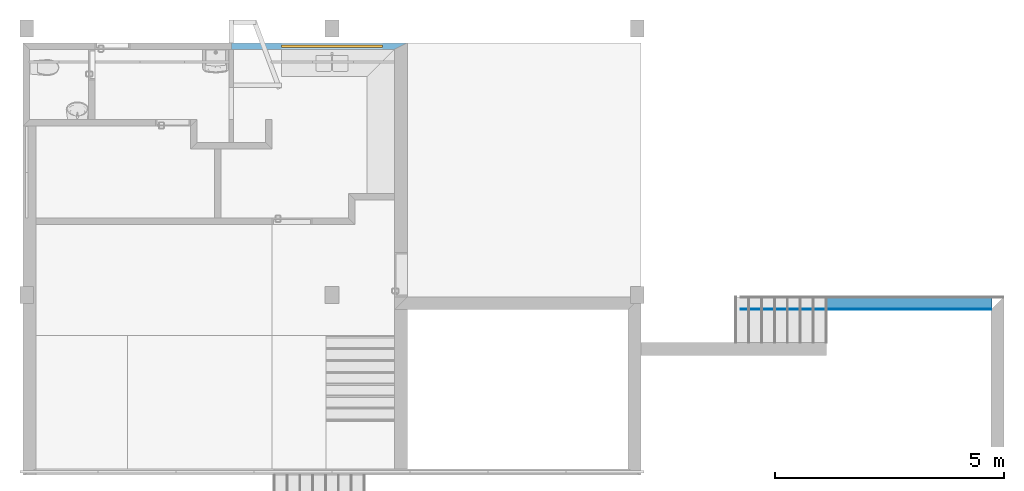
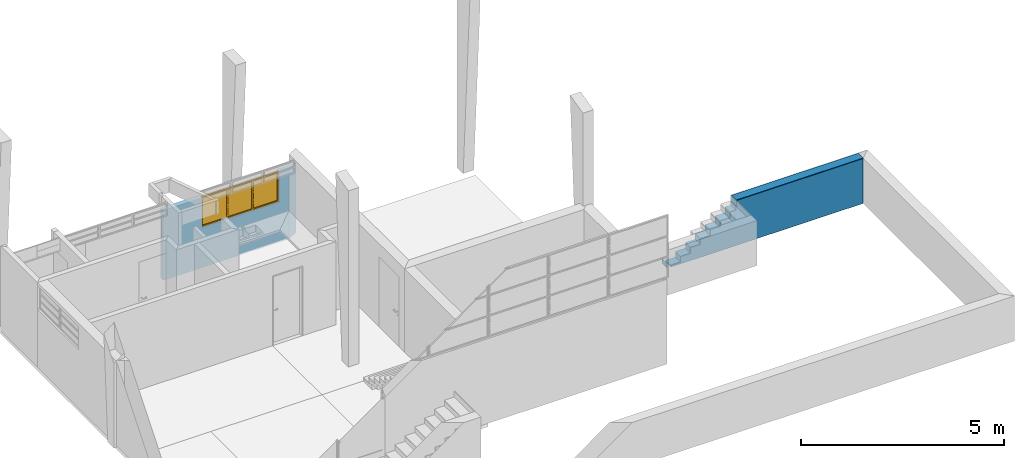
# One storey, part 11 of 16: 2 building element parts, 1 window, 4 openings, 1 element without a shape of its own, plus 1 element that does not belong to this part.
"""IFC2X3 building model written with IfcOpenShell, lengths in millimetres."""

import ifcopenshell
import ifcopenshell.guid

model = None  # the IFC model being written
_history = None  # IfcOwnerHistory: only IFC2X3 demands one
_inside = {}  # id of a spatial element -> (the spatial element, [elements in it])
_under = {}  # id of a project, library or spatial element -> (it, [spatial elements below it])
_declared = {}  # id of a project -> (the project, [libraries it declares])
_typed = {}  # id of a type object -> (the type object, [elements of that type])
_made_of = {}  # id of a material, layer set ... -> (it, [elements and type objects made of it])


def new_model(schema):
    """Start an empty IFC model of exactly this schema.

    Asked for "IFC4X3", IfcOpenShell would pick the latest addendum, in which some entities
    have other attributes; the version numbers below select the first issue.
    IFC2X3 requires an IfcOwnerHistory on every rooted entity: one is made here for all.
    """
    global model, _history
    if schema == "IFC4X3":
        model = ifcopenshell.file(schema_version=(4, 3, 0, 0))
    else:
        model = ifcopenshell.file(schema=schema)
    _inside.clear()
    _under.clear()
    _declared.clear()
    _typed.clear()
    _made_of.clear()
    _history = None
    if model.schema == "IFC2X3":
        org = make("IfcOrganization", Name="unknown")
        user = make(
            "IfcPersonAndOrganization",
            ThePerson=make("IfcPerson", FamilyName="unknown"),
            TheOrganization=org,
        )
        app = make(
            "IfcApplication",
            ApplicationDeveloper=org,
            Version="unknown",
            ApplicationFullName="unknown",
            ApplicationIdentifier="unknown",
        )
        _history = make(
            "IfcOwnerHistory",
            OwningUser=user,
            OwningApplication=app,
            ChangeAction="ADDED",
            CreationDate=0,
        )
    return model


def make(cls, **values):
    """One entity of the class cls with the attributes given. An attribute that is None is left unset."""
    return model.create_entity(
        cls, **{name: value for name, value in values.items() if value is not None}
    )


def entity(cls, *values):
    """Any entity or typed value of the class cls, its attributes in the order of the schema. None: left unset."""
    e = model.create_entity(cls)
    for i, value in enumerate(values):
        if value is not None:
            e[i] = value
    return e


def rooted(cls, **values):
    """An entity with a GlobalId (a new one), such as an element, a storey or a relation."""
    return make(cls, GlobalId=ifcopenshell.guid.new(), OwnerHistory=_history, **values)


def si_unit(unit_type, name, prefix=None):
    """IfcSIUnit, for example si_unit("LENGTHUNIT", "METRE", prefix="MILLI")."""
    return make("IfcSIUnit", UnitType=unit_type, Prefix=prefix, Name=name)


def converted_unit(unit_type, name, factor, base, dimensions=None, offset=None):
    """IfcConversionBasedUnit, such as the inch: factor (a typed value) times the base unit."""
    return make(
        "IfcConversionBasedUnit"
        if offset is None
        else "IfcConversionBasedUnitWithOffset",
        ConversionOffset=offset,
        Dimensions=None
        if dimensions is None
        else entity("IfcDimensionalExponents", *dimensions),
        UnitType=unit_type,
        Name=name,
        ConversionFactor=make(
            "IfcMeasureWithUnit", ValueComponent=factor, UnitComponent=base
        ),
    )


def derived_unit(unit_type, elements):
    """IfcDerivedUnit: a product of units, each with its exponent."""
    return make(
        "IfcDerivedUnit",
        Elements=[
            make("IfcDerivedUnitElement", Unit=unit, Exponent=power)
            for unit, power in elements
        ],
        UnitType=unit_type,
    )


def money_unit(currency):
    """IfcMonetaryUnit."""
    return make("IfcMonetaryUnit", Currency=currency)


def assignment(units):
    """IfcUnitAssignment: the units of a project."""
    return None if units is None else make("IfcUnitAssignment", Units=units)


def point(xyz):
    """IfcCartesianPoint."""
    return None if xyz is None else make("IfcCartesianPoint", Coordinates=xyz)


def direction(xyz):
    """IfcDirection."""
    return None if xyz is None else make("IfcDirection", DirectionRatios=xyz)


def frame(location, z_axis=None, x_axis=None):
    """IfcAxis2Placement3D, a coordinate frame: its origin and axes. An axis left out is left unset."""
    return make(
        "IfcAxis2Placement3D",
        Location=point(location),
        Axis=direction(z_axis),
        RefDirection=direction(x_axis),
    )


def frame_2d(location, x_axis=None):
    """IfcAxis2Placement2D, a coordinate frame in the plane: its origin and x axis."""
    return make(
        "IfcAxis2Placement2D", Location=point(location), RefDirection=direction(x_axis)
    )


def origin_with_axes():
    """The frame at (0, 0, 0) with the z axis (0, 0, 1) and the x axis (1, 0, 0) written out."""
    return frame((0.0, 0.0, 0.0), z_axis=(0.0, 0.0, 1.0), x_axis=(1.0, 0.0, 0.0))


def origin_2d_with_axis():
    """The frame at (0, 0) in the plane with the x axis (1, 0) written out."""
    return frame_2d((0.0, 0.0), x_axis=(1.0, 0.0))


def place(relative_to, where):
    """IfcLocalPlacement: puts the frame where relative to a parent placement (None: the world)."""
    return make(
        "IfcLocalPlacement", PlacementRelTo=relative_to, RelativePlacement=where
    )


def context(
    kind, dimensions, precision=None, world=None, true_north=None, identifier=None
):
    """IfcGeometricRepresentationContext, for example the 3D "Model" context."""
    return make(
        "IfcGeometricRepresentationContext",
        ContextIdentifier=identifier,
        ContextType=kind,
        CoordinateSpaceDimension=dimensions,
        Precision=precision,
        WorldCoordinateSystem=world,
        TrueNorth=true_north,
    )


def subcontext(parent, identifier, kind, view, scale=None):
    """IfcGeometricRepresentationSubContext, for example "Body" below "Model"."""
    return make(
        "IfcGeometricRepresentationSubContext",
        ContextIdentifier=identifier,
        ContextType=kind,
        ParentContext=parent,
        TargetScale=scale,
        TargetView=view,
    )


def project(units=None, contexts=None):
    """IfcProject with its units and contexts."""
    return rooted(
        "IfcProject",
        Name="project",
        RepresentationContexts=contexts,
        UnitsInContext=assignment(units),
    )


def spatial(cls, under=None, at=None, **own):
    """A site, building, storey or space (cls), placed at a placement, below another one or the project."""
    s = rooted(cls, ObjectPlacement=at, **own)
    if under is not None:
        _under.setdefault(under.id(), (under, []))[1].append(s)
    return s


def polyline(points):
    """IfcPolyline through the points."""
    return make("IfcPolyline", Points=[point(p) for p in points])


def profile(cls, at=None, kind="AREA", **sizes):
    """A parametric profile (cls). Its sizes go by their IFC names, for example OverallWidth=200.0."""
    return make(cls, ProfileType=kind, Position=at, **sizes)


def rectangle(**sizes):
    """IfcRectangleProfileDef."""
    return profile("IfcRectangleProfileDef", **sizes)


def outline(outer, holes=None, kind="AREA"):
    """IfcArbitraryClosedProfileDef: a profile drawn as a closed curve; with holes, ...WithVoids."""
    if holes is None:
        return make("IfcArbitraryClosedProfileDef", ProfileType=kind, OuterCurve=outer)
    return make(
        "IfcArbitraryProfileDefWithVoids",
        ProfileType=kind,
        OuterCurve=outer,
        InnerCurves=holes,
    )


def extrude(swept, where, along, depth):
    """IfcExtrudedAreaSolid: the profile swept, set in the frame where, extruded along a direction by depth."""
    return make(
        "IfcExtrudedAreaSolid",
        SweptArea=swept,
        Position=where,
        ExtrudedDirection=direction(along),
        Depth=depth,
    )


def boolean(op, a, b):
    """IfcBooleanResult of two solids."""
    return make("IfcBooleanResult", Operator=op, FirstOperand=a, SecondOperand=b)


def faces_of(points, faces, orient=None, outer=None):
    """IfcFace entities. A face is a list of loops; a loop is a list of indices into points, from 0.

    orient and outer hold one flag for each loop. By default every Orientation is true, the
    first loop of a face is its IfcFaceOuterBound and the others are IfcFaceBound.
    """
    made = []
    for i, loops in enumerate(faces):
        bounds = []
        for j, loop in enumerate(loops):
            is_outer = j == 0 if outer is None else outer[i][j]
            bounds.append(
                make(
                    "IfcFaceOuterBound" if is_outer else "IfcFaceBound",
                    Bound=make("IfcPolyLoop", Polygon=[points[k] for k in loop]),
                    Orientation=True if orient is None else orient[i][j],
                )
            )
        made.append(make("IfcFace", Bounds=bounds))
    return made


def open_shell(faces, orient=None, outer=None):
    """The faces of one IfcOpenShell. surface_model builds it on its shared points."""
    return ("IfcOpenShell", faces, orient, outer)


def faceted_brep(points, faces, orient=None, outer=None, voids=None):
    """IfcFacetedBrep: a solid bounded by flat faces; with voids (closed shells), ...WithVoids."""
    shared = [point(p) for p in points]
    hull = make("IfcClosedShell", CfsFaces=faces_of(shared, faces, orient, outer))
    if voids is None:
        return make("IfcFacetedBrep", Outer=hull)
    return make(
        "IfcFacetedBrepWithVoids",
        Outer=hull,
        Voids=[
            make(cls, CfsFaces=faces_of(shared, fs, o, b)) for cls, fs, o, b in voids
        ],
    )


def surface_model(cls, points, shells):
    """IfcFaceBasedSurfaceModel or IfcShellBasedSurfaceModel (cls): surfaces that need not close."""
    shared = [point(p) for p in points]
    made = [make(c, CfsFaces=faces_of(shared, fs, o, b)) for c, fs, o, b in shells]
    if cls == "IfcFaceBasedSurfaceModel":
        return make(cls, FbsmFaces=made)
    return make(cls, SbsmBoundary=made)


def shape(context_of_items, identifier, shape_type, items):
    """IfcShapeRepresentation: the items that make up one representation, for example the "Body"."""
    return make(
        "IfcShapeRepresentation",
        ContextOfItems=context_of_items,
        RepresentationIdentifier=identifier,
        RepresentationType=shape_type,
        Items=items,
    )


def material(Name=None, Category=None):
    """IfcMaterial."""
    return make("IfcMaterial", Name=Name, Category=Category)


def layer(
    of_material, thickness, ventilated=None, Name=None, Category=None, Priority=None
):
    """IfcMaterialLayer: one layer of a wall or slab, of a material (None: an air gap)."""
    return make(
        "IfcMaterialLayer",
        Material=of_material,
        LayerThickness=thickness,
        IsVentilated=ventilated,
        Name=Name,
        Category=Category,
        Priority=Priority,
    )


def layer_set(layers, Name=None):
    """IfcMaterialLayerSet."""
    return make("IfcMaterialLayerSet", MaterialLayers=layers, LayerSetName=Name)


def layer_usage(for_layer_set, set_direction, sense, offset, extent=None):
    """IfcMaterialLayerSetUsage: how a layer set lies in its element."""
    return make(
        "IfcMaterialLayerSetUsage",
        ForLayerSet=for_layer_set,
        LayerSetDirection=set_direction,
        DirectionSense=sense,
        OffsetFromReferenceLine=offset,
        ReferenceExtent=extent,
    )


def made_of(thing, what):
    """Note that an element or type object is made of a material, layer set ...; save() writes the relation."""
    if what is not None:
        _made_of.setdefault(what.id(), (what, []))[1].append(thing)
    return thing


def type_object(cls, material=None, **own):
    """A type object (cls), such as IfcWallType, which elements share."""
    return made_of(rooted(cls, **own), material)


def element(
    cls,
    number,
    at=None,
    inside=None,
    cuts=None,
    type_object=None,
    material=None,
    context=None,
    identifier="Body",
    shape_type=None,
    held_by="IfcProductDefinitionShape",
    body=None,
    shapes=None,
    **own,
):
    """One element of the class cls, such as IfcWall. Its Tag is "e" and its number.

    at: its placement. inside: the storey or other place that contains it. cuts: it is an
    opening in that element (IfcRelVoidsElement). A single representation is given by context,
    identifier, shape_type and body (its items); several are given by shapes. held_by: the class
    of the entity that holds the representations. save() writes the other relations.
    """
    e = rooted(cls, Tag="e%d" % number, ObjectPlacement=at, **own)
    if body is not None:
        shapes = [shape(context, identifier, shape_type, body)]
    if shapes is not None:
        e.Representation = make(held_by, Representations=shapes)
    if inside is not None:
        _inside.setdefault(inside.id(), (inside, []))[1].append(e)
    if cuts is not None:
        rooted(
            "IfcRelVoidsElement", RelatingBuildingElement=cuts, RelatedOpeningElement=e
        )
    if type_object is not None:
        _typed.setdefault(type_object.id(), (type_object, []))[1].append(e)
    return made_of(e, material)


def fill(opening, filler):
    """IfcRelFillsElement: the door or window that sits in an opening."""
    return rooted(
        "IfcRelFillsElement",
        RelatingOpeningElement=opening,
        RelatedBuildingElement=filler,
    )


def aggregate(whole, parts):
    """IfcRelAggregates: a whole, such as a stair, and the parts it consists of."""
    return rooted("IfcRelAggregates", RelatingObject=whole, RelatedObjects=parts)


def save(model, path):
    """Write the relations noted so far, then the file.

    IfcRelAggregates (storeys below a building ...), IfcRelContainedInSpatialStructure (elements
    in a storey), IfcRelDefinesByType, IfcRelAssociatesMaterial and IfcRelDeclares: one each for
    every whole, place, type object, material and project.
    """
    for whole, parts in _under.values():
        aggregate(whole, parts)
    for where, things in _inside.values():
        rooted(
            "IfcRelContainedInSpatialStructure",
            RelatedElements=things,
            RelatingStructure=where,
        )
    for kind, things in _typed.values():
        rooted("IfcRelDefinesByType", RelatedObjects=things, RelatingType=kind)
    for what, things in _made_of.values():
        rooted("IfcRelAssociatesMaterial", RelatedObjects=things, RelatingMaterial=what)
    for by, libraries in _declared.values():
        rooted("IfcRelDeclares", RelatingContext=by, RelatedDefinitions=libraries)
    model.write(path)


model = new_model("IFC2X3")

# Units and contexts
model_context = context("Model", 3, precision=0.01, world=origin_with_axes(), true_north=direction((0.293984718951, 0.955810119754)))
body_context = subcontext(model_context, "Body", "Model", "MODEL_VIEW")
ifc_project = project(units=[si_unit("LENGTHUNIT", "METRE", prefix="MILLI"), si_unit("AREAUNIT", "SQUARE_METRE"), si_unit("VOLUMEUNIT", "CUBIC_METRE"), converted_unit("PLANEANGLEUNIT", "DEGREE", entity("IfcPlaneAngleMeasure", 0.0174532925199), si_unit("PLANEANGLEUNIT", "RADIAN"), dimensions=[0, 0, 0, 0, 0, 0, 0]), si_unit("SOLIDANGLEUNIT", "STERADIAN"), money_unit("USD"), converted_unit("TIMEUNIT", "Year", entity("IfcTimeMeasure", 31556926.0), si_unit("TIMEUNIT", "SECOND"), dimensions=[0, 0, 1, 0, 0, 0, 0]), si_unit("MASSUNIT", "GRAM", prefix="KILO"), si_unit("THERMODYNAMICTEMPERATUREUNIT", "DEGREE_CELSIUS"), si_unit("LUMINOUSINTENSITYUNIT", "LUMEN"), si_unit("ENERGYUNIT", "JOULE", prefix="MEGA"), derived_unit("THERMALCONDUCTANCEUNIT", [(si_unit("POWERUNIT", "WATT"), 1), (si_unit("LENGTHUNIT", "METRE"), -1), (si_unit("THERMODYNAMICTEMPERATUREUNIT", "KELVIN"), -1)]), derived_unit("SPECIFICHEATCAPACITYUNIT", [(si_unit("ENERGYUNIT", "JOULE"), 1), (si_unit("MASSUNIT", "GRAM", prefix="KILO"), -1), (si_unit("THERMODYNAMICTEMPERATUREUNIT", "KELVIN"), -1)]), derived_unit("MASSDENSITYUNIT", [(si_unit("MASSUNIT", "GRAM", prefix="KILO"), 1), (si_unit("VOLUMEUNIT", "CUBIC_METRE"), -1)])], contexts=[model_context])

# Site, building, storey
site_placement = place(None, origin_with_axes())
site = spatial("IfcSite", under=ifc_project, at=site_placement, Name="Local", CompositionType="ELEMENT")
building_placement = place(site_placement, origin_with_axes())
building = spatial("IfcBuilding", under=site, at=building_placement, Name="Construção", CompositionType="ELEMENT")
storey_placement = place(building_placement, origin_with_axes())
storey = spatial("IfcBuildingStorey", under=building, at=storey_placement, Name="Pavimento Térreo", CompositionType="ELEMENT", Elevation=0.0)

# Wall, openings, window
ifc_material_1 = material(Name="Reboco (1)")
ifc_layer_1 = layer(ifc_material_1, 20.0, ventilated="UNKNOWN")
ifc_material_2 = material(Name="Tijolo - Estrutural (1)")
ifc_layer_2 = layer(ifc_material_2, 100.0, ventilated="UNKNOWN")
ifc_layer_3 = layer(ifc_material_1, 20.0, ventilated="UNKNOWN")
ifc_layer_set = layer_set([ifc_layer_1, ifc_layer_2, ifc_layer_3], Name="Alvenaria Tijolo Maciço com Revestimento 14cm")
ifc_layer_usage = layer_usage(ifc_layer_set, "AXIS2", "NEGATIVE", 0.0)
wall_type_1 = type_object("IfcWallType", Name="Alvenaria Tijolo Maciço com Revestimento 14cm 140", PredefinedType="NOTDEFINED")
wall_1_placement = place(storey_placement, frame((11629.6450727, 12800.6321979, 50.0), z_axis=(0.0, 0.0, 1.0), x_axis=(1.0, 0.0, 0.0)))
wall_1 = element("IfcWallStandardCase", 1, at=wall_1_placement, inside=storey, type_object=wall_type_1, material=ifc_layer_usage, Name="Parede", context=body_context, shape_type="SweptSolid", body=[
    extrude(outline(polyline([(0.0, -140.0), (3570.00000003, -140.0), (3850.00000003, 0.0), (0.0, 0.0), (0.0, -140.0)])), origin_with_axes(), (0.0, 0.0, 1.0), 2100.0),
])
opening_1_placement = place(wall_1_placement, frame((2200.0, -5.23847631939e-09, 1200.0), z_axis=(0.0, 0.0, 1.0), x_axis=(1.0, 0.0, 0.0)))
opening_1 = element("IfcOpeningElement", 2, at=opening_1_placement, cuts=wall_1, Name="J03", context=body_context, shape_type="SweptSolid", body=[
    extrude(rectangle(XDim=2200.0, YDim=900.0, at=origin_2d_with_axis()), frame((-2.14939177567e-10, -49.9999999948, 450.0), z_axis=(0.0, -1.0, 0.0), x_axis=(1.0, 0.0, 0.0)), (0.0, 0.0, 1.0), 230.0),
    extrude(rectangle(XDim=2200.0, YDim=900.0, at=origin_2d_with_axis()), frame((-2.14939177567e-10, -49.9999999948, 450.0), z_axis=(0.0, 1.0, 0.0), x_axis=(1.0, 0.0, 0.0)), (0.0, 0.0, 1.0), 190.0),
])
opening_2_placement = place(wall_1_placement, frame((3120.00000003, -7.42872430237e-09, 2150.0), z_axis=(0.0, 0.0, 1.0), x_axis=(1.0, 0.0, 0.0)))
element("IfcOpeningElement", 3, at=opening_2_placement, cuts=wall_1, Name="J04", context=body_context, shape_type="SweptSolid", body=[
    extrude(rectangle(XDim=900.0, YDim=400.0, at=origin_2d_with_axis()), frame((6.18172180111e-10, -399.999999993, 200.0), z_axis=(0.0, -1.0, 0.0), x_axis=(-1.0, 0.0, 0.0)), (0.0, 0.0, -1.0), 540.0),
    extrude(rectangle(XDim=900.0, YDim=400.0, at=origin_2d_with_axis()), frame((6.18172180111e-10, -399.999999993, 200.0), z_axis=(0.0, 1.0, 0.0), x_axis=(-1.0, 0.0, 0.0)), (0.0, 0.0, -1.0), 400.0),
])
opening_3_placement = place(wall_1_placement, frame((2220.00000003, -5.28466159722e-09, 2150.0), z_axis=(0.0, 0.0, 1.0), x_axis=(1.0, 0.0, 0.0)))
element("IfcOpeningElement", 4, at=opening_3_placement, cuts=wall_1, Name="J04", context=body_context, shape_type="SweptSolid", body=[
    extrude(rectangle(XDim=900.0, YDim=400.0, at=origin_2d_with_axis()), frame((6.18172180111e-10, -399.999999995, 200.0), z_axis=(0.0, -1.0, 0.0), x_axis=(-1.0, 0.0, 0.0)), (0.0, 0.0, -1.0), 540.0),
    extrude(rectangle(XDim=900.0, YDim=400.0, at=origin_2d_with_axis()), frame((6.18172180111e-10, -399.999999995, 200.0), z_axis=(0.0, 1.0, 0.0), x_axis=(-1.0, 0.0, 0.0)), (0.0, 0.0, -1.0), 400.0),
])
opening_4_placement = place(wall_1_placement, frame((1320.00000003, -3.1423752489e-09, 2150.0), z_axis=(0.0, 0.0, 1.0), x_axis=(1.0, 0.0, 0.0)))
element("IfcOpeningElement", 5, at=opening_4_placement, cuts=wall_1, Name="J04", context=body_context, shape_type="SweptSolid", body=[
    extrude(rectangle(XDim=900.0, YDim=400.0, at=origin_2d_with_axis()), frame((6.18172180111e-10, -399.999999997, 200.0), z_axis=(0.0, -1.0, 0.0), x_axis=(-1.0, 0.0, 0.0)), (0.0, 0.0, -1.0), 540.0),
    extrude(rectangle(XDim=900.0, YDim=400.0, at=origin_2d_with_axis()), frame((6.18172180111e-10, -399.999999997, 200.0), z_axis=(0.0, 1.0, 0.0), x_axis=(-1.0, 0.0, 0.0)), (0.0, 0.0, -1.0), 400.0),
])
window_style = type_object("IfcWindowStyle", Name="Janela Tripla 23", ConstructionType="NOTDEFINED", OperationType="TRIPLE_PANEL_VERTICAL", ParameterTakesPrecedence=False, Sizeable=False)
window_placement = place(opening_1_placement, frame((1100.0, -2.61834998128e-09, 0.0), z_axis=(0.0, 0.0, 1.0), x_axis=(-1.0, 0.0, 0.0)))
window = element("IfcWindow", 6, at=window_placement, inside=storey, type_object=window_style, Name="J03", OverallHeight=900.0, OverallWidth=2200.0, context=body_context, shape_type="SurfaceModel", body=[
    faceted_brep([(2165.0, 49.9999999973, 865.0), (2200.0, 49.9999999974, 865.0), (2200.0, 99.9999999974, 865.0), (2165.0, 99.9999999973, 865.0), (2165.0, 49.9999999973, 35.0), (2200.0, 49.9999999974, 35.0), (2200.0, 99.9999999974, 35.0), (2165.0, 99.9999999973, 35.0)], [[[0, 1, 2, 3]], [[0, 4, 5, 1]], [[1, 5, 6, 2]], [[3, 2, 6, 7]], [[4, 0, 3, 7]], [[5, 4, 7, 6]]]),
    faceted_brep([(35.0000000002, 49.9999999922, 35.0), (2.14939177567e-10, 49.9999999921, 35.0), (0.0, 99.9999999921, 35.0), (35.0000000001, 99.9999999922, 35.0), (35.0000000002, 49.9999999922, 865.0), (2.14939177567e-10, 49.9999999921, 865.0), (0.0, 99.9999999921, 865.0), (35.0000000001, 99.9999999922, 865.0)], [[[0, 1, 2, 3]], [[0, 4, 5, 1]], [[1, 5, 6, 2]], [[3, 2, 6, 7]], [[4, 0, 3, 7]], [[5, 4, 7, 6]]]),
    faceted_brep([(756.666666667, 49.9999999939, 35.0), (721.666666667, 49.9999999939, 35.0), (721.666666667, 99.9999999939, 35.0), (756.666666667, 99.9999999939, 35.0), (756.666666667, 49.9999999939, 865.0), (721.666666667, 49.9999999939, 865.0), (721.666666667, 99.9999999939, 865.0), (756.666666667, 99.9999999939, 865.0)], [[[0, 1, 2, 3]], [[0, 4, 5, 1]], [[1, 5, 6, 2]], [[3, 2, 6, 7]], [[4, 0, 3, 7]], [[5, 4, 7, 6]]]),
    faceted_brep([(1443.33333333, 49.9999999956, 865.0), (1478.33333333, 49.9999999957, 865.0), (1478.33333333, 99.9999999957, 865.0), (1443.33333333, 99.9999999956, 865.0), (1443.33333333, 49.9999999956, 35.0), (1478.33333333, 49.9999999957, 35.0), (1478.33333333, 99.9999999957, 35.0), (1443.33333333, 99.9999999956, 35.0)], [[[0, 1, 2, 3]], [[0, 4, 5, 1]], [[1, 5, 6, 2]], [[3, 2, 6, 7]], [[4, 0, 3, 7]], [[5, 4, 7, 6]]]),
    faceted_brep([(2165.0, 49.9999999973, 35.0), (2200.0, 49.9999999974, 35.0), (2200.0, 99.9999999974, 35.0), (2165.0, 99.9999999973, 35.0), (1478.33333333, 49.9999999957, 35.0), (1443.33333333, 49.9999999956, 35.0), (756.666666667, 49.9999999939, 35.0), (721.666666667, 49.9999999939, 35.0), (35.0000000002, 49.9999999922, 35.0), (2.14939177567e-10, 49.9999999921, 35.0), (2.14939177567e-10, 49.9999999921, 0.0), (2200.0, 49.9999999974, 0.0), (2200.0, 99.9999999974, 0.0), (0.0, 99.9999999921, 0.0), (0.0, 99.9999999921, 35.0), (35.0000000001, 99.9999999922, 35.0), (721.666666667, 99.9999999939, 35.0), (756.666666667, 99.9999999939, 35.0), (1443.33333333, 99.9999999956, 35.0), (1478.33333333, 99.9999999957, 35.0)], [[[0, 1, 2, 3]], [[0, 4, 5, 6, 7, 8, 9, 10, 11, 1]], [[1, 11, 12, 2]], [[3, 2, 12, 13, 14, 15, 16, 17, 18, 19]], [[4, 0, 3, 19]], [[5, 4, 19, 18]], [[6, 5, 18, 17]], [[7, 6, 17, 16]], [[8, 7, 16, 15]], [[9, 8, 15, 14]], [[10, 9, 14, 13]], [[11, 10, 13, 12]]]),
    faceted_brep([(1478.33333333, 49.9999999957, 865.0), (1443.33333333, 49.9999999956, 865.0), (1443.33333333, 99.9999999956, 865.0), (1478.33333333, 99.9999999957, 865.0), (2165.0, 49.9999999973, 865.0), (2200.0, 49.9999999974, 865.0), (2200.0, 49.9999999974, 900.0), (2.14939177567e-10, 49.9999999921, 900.0), (2.14939177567e-10, 49.9999999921, 865.0), (35.0000000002, 49.9999999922, 865.0), (721.666666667, 49.9999999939, 865.0), (756.666666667, 49.9999999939, 865.0), (756.666666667, 99.9999999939, 865.0), (721.666666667, 99.9999999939, 865.0), (35.0000000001, 99.9999999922, 865.0), (0.0, 99.9999999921, 865.0), (0.0, 99.9999999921, 900.0), (2200.0, 99.9999999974, 900.0), (2200.0, 99.9999999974, 865.0), (2165.0, 99.9999999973, 865.0)], [[[0, 1, 2, 3]], [[0, 4, 5, 6, 7, 8, 9, 10, 11, 1]], [[1, 11, 12, 2]], [[3, 2, 12, 13, 14, 15, 16, 17, 18, 19]], [[4, 0, 3, 19]], [[5, 4, 19, 18]], [[6, 5, 18, 17]], [[7, 6, 17, 16]], [[8, 7, 16, 15]], [[9, 8, 15, 14]], [[10, 9, 14, 13]], [[11, 10, 13, 12]]]),
    surface_model("IfcShellBasedSurfaceModel", [(2165.0, 64.9999999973, 35.0), (2165.0, 64.9999999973, 865.0), (1478.33333333, 64.9999999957, 865.0), (1478.33333333, 64.9999999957, 35.0)], [open_shell([[[0, 1, 2, 3]]])]),
    surface_model("IfcShellBasedSurfaceModel", [(2165.0, 84.9999999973, 35.0), (1478.33333333, 84.9999999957, 35.0), (1478.33333333, 84.9999999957, 865.0), (2165.0, 84.9999999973, 865.0)], [open_shell([[[0, 1, 2, 3]]])]),
    surface_model("IfcShellBasedSurfaceModel", [(1443.33333333, 64.9999999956, 35.0), (1443.33333333, 64.9999999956, 865.0), (756.666666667, 64.9999999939, 865.0), (756.666666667, 64.9999999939, 35.0)], [open_shell([[[0, 1, 2, 3]]])]),
    surface_model("IfcShellBasedSurfaceModel", [(1443.33333333, 84.9999999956, 35.0), (756.666666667, 84.9999999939, 35.0), (756.666666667, 84.9999999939, 865.0), (1443.33333333, 84.9999999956, 865.0)], [open_shell([[[0, 1, 2, 3]]])]),
    surface_model("IfcShellBasedSurfaceModel", [(721.666666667, 64.9999999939, 35.0), (721.666666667, 64.9999999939, 865.0), (35.0000000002, 64.9999999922, 865.0), (35.0000000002, 64.9999999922, 35.0)], [open_shell([[[0, 1, 2, 3]]])]),
    surface_model("IfcShellBasedSurfaceModel", [(721.666666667, 84.9999999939, 35.0), (35.0000000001, 84.9999999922, 35.0), (35.0000000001, 84.9999999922, 865.0), (721.666666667, 84.9999999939, 865.0)], [open_shell([[[0, 1, 2, 3]]])]),
])
fill(opening_1, window)

# Wall, building element parts
wall_type_2 = type_object("IfcWallType", Name="Alvenaria Tijolo Maciço com Revestimento 28cm 280", PredefinedType="NOTDEFINED")
wall_2_placement = place(storey_placement, frame((28519.6450727, 7250.63219788, 0.0), z_axis=(0.0, 0.0, 1.0), x_axis=(-1.0, 0.0, 0.0)))
wall_2 = element("IfcWall", 7, at=wall_2_placement, inside=storey, type_object=wall_type_2, Name="Parede")
ifc_material_3 = material(Name="Reboco")
building_element_part_1_placement = place(wall_2_placement, origin_with_axes())
building_element_part_1 = element("IfcBuildingElementPart", 8, at=building_element_part_1_placement, material=ifc_material_3, Name="Reboco", context=body_context, shape_type="CSG", body=[
    boolean("DIFFERENCE", boolean("DIFFERENCE", boolean("DIFFERENCE", boolean("DIFFERENCE", boolean("DIFFERENCE", boolean("DIFFERENCE", extrude(outline(polyline([(0.0, 260.0), (5870.0, 260.0), (5870.0, 280.0), (0.0, 280.0), (0.0, 260.0)])), origin_with_axes(), (0.0, 0.0, 1.0), 1350.0), faceted_brep([(3875.85951723, 280.0, 1350.0), (3875.85951737, 260.0, 1350.0), (5870.0, 260.0, 1350.0), (5870.0, 280.0, 1350.0), (3875.85951737, 260.0, 1161.25), (3875.85951723, 280.0, 1161.25), (5749.9, 260.0, 48.75), (5749.9, 260.0, 0.0), (5849.9, 260.0, 0.0), (5849.9, 260.0, 148.75), (5850.0, 260.0, 148.75), (5850.0, 260.0, 0.0), (5870.0, 260.0, 0.0), (3895.85951701, 260.0, 1161.25), (3895.85951701, 260.0, 1061.25), (4057.77958205, 260.0, 1061.25), (4057.77958205, 260.0, 892.5), (4339.79965171, 260.0, 892.5), (4339.79965171, 260.0, 723.75), (4621.81972137, 260.0, 723.75), (4621.81972137, 260.0, 555.0), (4903.83979103, 260.0, 555.0), (4903.83979103, 260.0, 386.25), (5185.85986068, 260.0, 386.25), (5185.85986068, 260.0, 217.5), (5467.87993034, 260.0, 217.5), (5467.87993034, 260.0, 48.75), (5870.0, 280.0, 0.0), (5850.0, 280.0, 0.0), (5850.0, 280.0, 148.75), (5849.9, 280.0, 148.75), (5849.9, 280.0, 0.0), (5749.9, 280.0, 0.0), (5749.9, 280.0, 48.75), (5467.87993034, 280.0, 48.75), (5467.87993034, 280.0, 217.5), (5185.85986068, 280.0, 217.5), (5185.85986068, 280.0, 386.25), (4903.83979103, 280.0, 386.25), (4903.83979103, 280.0, 555.0), (4621.81972137, 280.0, 555.0), (4621.81972137, 280.0, 723.75), (4339.79965171, 280.0, 723.75), (4339.79965171, 280.0, 892.5), (4057.77958205, 280.0, 892.5), (4057.77958205, 280.0, 1061.25), (3895.85951689, 280.0, 1061.25), (3895.85951689, 280.0, 1161.25)], [[[0, 1, 2, 3]], [[4, 1, 0, 5]], [[6, 7, 8, 9, 10, 11, 12, 2, 1, 4, 13, 14, 15, 16, 17, 18, 19, 20, 21, 22, 23, 24, 25, 26]], [[2, 12, 27, 3]], [[5, 0, 3, 27, 28, 29, 30, 31, 32, 33, 34, 35, 36, 37, 38, 39, 40, 41, 42, 43, 44, 45, 46, 47]], [[13, 4, 5, 47]], [[7, 6, 33, 32]], [[7, 32, 31, 8]], [[9, 8, 31, 30]], [[10, 9, 30, 29]], [[11, 10, 29, 28]], [[11, 28, 27, 12]], [[14, 13, 47, 46]], [[15, 14, 46, 45]], [[16, 15, 45, 44]], [[17, 16, 44, 43]], [[18, 17, 43, 42]], [[19, 18, 42, 41]], [[20, 19, 41, 40]], [[21, 20, 40, 39]], [[22, 21, 39, 38]], [[23, 22, 38, 37]], [[24, 23, 37, 36]], [[25, 24, 36, 35]], [[26, 25, 35, 34]], [[6, 26, 34, 33]]])), faceted_brep([(280.0, 260.0, 0.0), (280.0, 260.0, 1350.0), (0.0, 260.0, 1350.0), (0.0, 260.0, 0.0), (280.0, 280.0, 1350.0), (280.0, 280.0, 0.0), (0.0, 280.0, 1350.0), (0.0, 280.0, 0.0)], [[[0, 1, 2, 3]], [[4, 1, 0, 5]], [[1, 4, 6, 2]], [[6, 7, 3, 2]], [[5, 0, 3, 7]], [[4, 5, 7, 6]]])), faceted_brep([(3875.85951737, 260.0, 1350.0), (3875.85951898, 20.0, 1350.0), (5870.0, 20.0, 1350.0), (5870.0, 260.0, 1350.0), (3875.85951898, 20.0, 1161.25), (3875.85951737, 260.0, 1161.25), (5749.9, 20.0, 48.75), (5749.9, 20.0, 0.0), (5849.9, 20.0, 0.0), (5849.9, 20.0, 148.75), (5850.0, 20.0, 148.75), (5850.0, 20.0, 0.0), (5870.0, 20.0, 0.0), (3895.85951851, 20.0, 1161.25), (3895.85951851, 20.0, 1061.25), (4057.77958205, 20.0, 1061.25), (4057.77958205, 20.0, 892.5), (4339.79965171, 20.0, 892.5), (4339.79965171, 20.0, 723.75), (4621.81972137, 20.0, 723.75), (4621.81972137, 20.0, 555.0), (4903.83979103, 20.0, 555.0), (4903.83979103, 20.0, 386.25), (5185.85986068, 20.0, 386.25), (5185.85986068, 20.0, 217.5), (5467.87993034, 20.0, 217.5), (5467.87993034, 20.0, 48.75), (5870.0, 260.0, 0.0), (5850.0, 260.0, 0.0), (5850.0, 260.0, 148.75), (5849.9, 260.0, 148.75), (5849.9, 260.0, 0.0), (5749.9, 260.0, 0.0), (5749.9, 260.0, 48.75), (5467.87993034, 260.0, 48.75), (5467.87993034, 260.0, 217.5), (5185.85986068, 260.0, 217.5), (5185.85986068, 260.0, 386.25), (4903.83979103, 260.0, 386.25), (4903.83979103, 260.0, 555.0), (4621.81972137, 260.0, 555.0), (4621.81972137, 260.0, 723.75), (4339.79965171, 260.0, 723.75), (4339.79965171, 260.0, 892.5), (4057.77958205, 260.0, 892.5), (4057.77958205, 260.0, 1061.25), (3895.85951701, 260.0, 1061.25), (3895.85951701, 260.0, 1161.25)], [[[0, 1, 2, 3]], [[4, 1, 0, 5]], [[6, 7, 8, 9, 10, 11, 12, 2, 1, 4, 13, 14, 15, 16, 17, 18, 19, 20, 21, 22, 23, 24, 25, 26]], [[2, 12, 27, 3]], [[5, 0, 3, 27, 28, 29, 30, 31, 32, 33, 34, 35, 36, 37, 38, 39, 40, 41, 42, 43, 44, 45, 46, 47]], [[13, 4, 5, 47]], [[7, 6, 33, 32]], [[7, 32, 31, 8]], [[9, 8, 31, 30]], [[10, 9, 30, 29]], [[11, 10, 29, 28]], [[11, 28, 27, 12]], [[14, 13, 47, 46]], [[15, 14, 46, 45]], [[16, 15, 45, 44]], [[17, 16, 44, 43]], [[18, 17, 43, 42]], [[19, 18, 42, 41]], [[20, 19, 41, 40]], [[21, 20, 40, 39]], [[22, 21, 39, 38]], [[23, 22, 38, 37]], [[24, 23, 37, 36]], [[25, 24, 36, 35]], [[26, 25, 35, 34]], [[6, 26, 34, 33]]])), faceted_brep([(260.0, 20.0, 0.0), (260.0, 20.0, 1350.0), (0.0, 20.0, 1350.0), (0.0, 20.0, 0.0), (260.0, 260.0, 1350.0), (260.0, 260.0, 0.0), (0.0, 260.0, 1350.0), (0.0, 260.0, 0.0)], [[[0, 1, 2, 3]], [[4, 1, 0, 5]], [[1, 4, 6, 2]], [[6, 7, 3, 2]], [[5, 0, 3, 7]], [[4, 5, 7, 6]]])), faceted_brep([(3875.85951898, 20.0, 1350.0), (3875.85951911, 0.0, 1350.0), (5870.0, 0.0, 1350.0), (5870.0, 20.0, 1350.0), (3875.85951911, 0.0, 1161.25), (3875.85951898, 20.0, 1161.25), (5749.9, 0.0, 48.75), (5749.9, 0.0, 0.0), (5849.9, 0.0, 0.0), (5849.9, 0.0, 148.75), (5850.0, 0.0, 148.75), (5850.0, 0.0, 0.0), (5870.0, 0.0, 0.0), (3895.85951863, 0.0, 1161.25), (3895.85951863, 0.0, 1061.25), (4057.77958205, 0.0, 1061.25), (4057.77958205, 0.0, 892.5), (4339.79965171, 0.0, 892.5), (4339.79965171, 0.0, 723.75), (4621.81972137, 0.0, 723.75), (4621.81972137, 0.0, 555.0), (4903.83979103, 0.0, 555.0), (4903.83979103, 0.0, 386.25), (5185.85986068, 0.0, 386.25), (5185.85986068, 0.0, 217.5), (5467.87993034, 0.0, 217.5), (5467.87993034, 0.0, 48.75), (5870.0, 20.0, 0.0), (5850.0, 20.0, 0.0), (5850.0, 20.0, 148.75), (5849.9, 20.0, 148.75), (5849.9, 20.0, 0.0), (5749.9, 20.0, 0.0), (5749.9, 20.0, 48.75), (5467.87993034, 20.0, 48.75), (5467.87993034, 20.0, 217.5), (5185.85986068, 20.0, 217.5), (5185.85986068, 20.0, 386.25), (4903.83979103, 20.0, 386.25), (4903.83979103, 20.0, 555.0), (4621.81972137, 20.0, 555.0), (4621.81972137, 20.0, 723.75), (4339.79965171, 20.0, 723.75), (4339.79965171, 20.0, 892.5), (4057.77958205, 20.0, 892.5), (4057.77958205, 20.0, 1061.25), (3895.85951851, 20.0, 1061.25), (3895.85951851, 20.0, 1161.25)], [[[0, 1, 2, 3]], [[4, 1, 0, 5]], [[6, 7, 8, 9, 10, 11, 12, 2, 1, 4, 13, 14, 15, 16, 17, 18, 19, 20, 21, 22, 23, 24, 25, 26]], [[2, 12, 27, 3]], [[5, 0, 3, 27, 28, 29, 30, 31, 32, 33, 34, 35, 36, 37, 38, 39, 40, 41, 42, 43, 44, 45, 46, 47]], [[13, 4, 5, 47]], [[7, 6, 33, 32]], [[7, 32, 31, 8]], [[9, 8, 31, 30]], [[10, 9, 30, 29]], [[11, 10, 29, 28]], [[11, 28, 27, 12]], [[14, 13, 47, 46]], [[15, 14, 46, 45]], [[16, 15, 45, 44]], [[17, 16, 44, 43]], [[18, 17, 43, 42]], [[19, 18, 42, 41]], [[20, 19, 41, 40]], [[21, 20, 40, 39]], [[22, 21, 39, 38]], [[23, 22, 38, 37]], [[24, 23, 37, 36]], [[25, 24, 36, 35]], [[26, 25, 35, 34]], [[6, 26, 34, 33]]])), faceted_brep([(20.0, 0.0, 0.0), (20.0, 0.0, 1350.0), (0.0, 0.0, 1350.0), (0.0, 0.0, 0.0), (20.0, 20.0, 1350.0), (20.0, 20.0, 0.0), (0.0, 20.0, 1350.0), (0.0, 20.0, 0.0)], [[[0, 1, 2, 3]], [[4, 1, 0, 5]], [[1, 4, 6, 2]], [[6, 7, 3, 2]], [[5, 0, 3, 7]], [[4, 5, 7, 6]]])),
])
ifc_material_4 = material(Name="Tijolo - Estrutural")
building_element_part_2_placement = place(wall_2_placement, origin_with_axes())
building_element_part_2 = element("IfcBuildingElementPart", 9, at=building_element_part_2_placement, material=ifc_material_4, Name="Tijolo - Estrutural", context=body_context, shape_type="CSG", body=[
    boolean("DIFFERENCE", boolean("DIFFERENCE", boolean("DIFFERENCE", boolean("DIFFERENCE", boolean("DIFFERENCE", boolean("DIFFERENCE", extrude(outline(polyline([(0.0, 20.0), (5870.0, 20.0), (5870.0, 260.0), (0.0, 260.0), (0.0, 20.0)])), origin_with_axes(), (0.0, 0.0, 1.0), 1350.0), faceted_brep([(3875.85951723, 280.0, 1350.0), (3875.85951737, 260.0, 1350.0), (5870.0, 260.0, 1350.0), (5870.0, 280.0, 1350.0), (3875.85951737, 260.0, 1161.25), (3875.85951723, 280.0, 1161.25), (5749.9, 260.0, 48.75), (5749.9, 260.0, 0.0), (5849.9, 260.0, 0.0), (5849.9, 260.0, 148.75), (5850.0, 260.0, 148.75), (5850.0, 260.0, 0.0), (5870.0, 260.0, 0.0), (3895.85951701, 260.0, 1161.25), (3895.85951701, 260.0, 1061.25), (4057.77958205, 260.0, 1061.25), (4057.77958205, 260.0, 892.5), (4339.79965171, 260.0, 892.5), (4339.79965171, 260.0, 723.75), (4621.81972137, 260.0, 723.75), (4621.81972137, 260.0, 555.0), (4903.83979103, 260.0, 555.0), (4903.83979103, 260.0, 386.25), (5185.85986068, 260.0, 386.25), (5185.85986068, 260.0, 217.5), (5467.87993034, 260.0, 217.5), (5467.87993034, 260.0, 48.75), (5870.0, 280.0, 0.0), (5850.0, 280.0, 0.0), (5850.0, 280.0, 148.75), (5849.9, 280.0, 148.75), (5849.9, 280.0, 0.0), (5749.9, 280.0, 0.0), (5749.9, 280.0, 48.75), (5467.87993034, 280.0, 48.75), (5467.87993034, 280.0, 217.5), (5185.85986068, 280.0, 217.5), (5185.85986068, 280.0, 386.25), (4903.83979103, 280.0, 386.25), (4903.83979103, 280.0, 555.0), (4621.81972137, 280.0, 555.0), (4621.81972137, 280.0, 723.75), (4339.79965171, 280.0, 723.75), (4339.79965171, 280.0, 892.5), (4057.77958205, 280.0, 892.5), (4057.77958205, 280.0, 1061.25), (3895.85951689, 280.0, 1061.25), (3895.85951689, 280.0, 1161.25)], [[[0, 1, 2, 3]], [[4, 1, 0, 5]], [[6, 7, 8, 9, 10, 11, 12, 2, 1, 4, 13, 14, 15, 16, 17, 18, 19, 20, 21, 22, 23, 24, 25, 26]], [[2, 12, 27, 3]], [[5, 0, 3, 27, 28, 29, 30, 31, 32, 33, 34, 35, 36, 37, 38, 39, 40, 41, 42, 43, 44, 45, 46, 47]], [[13, 4, 5, 47]], [[7, 6, 33, 32]], [[7, 32, 31, 8]], [[9, 8, 31, 30]], [[10, 9, 30, 29]], [[11, 10, 29, 28]], [[11, 28, 27, 12]], [[14, 13, 47, 46]], [[15, 14, 46, 45]], [[16, 15, 45, 44]], [[17, 16, 44, 43]], [[18, 17, 43, 42]], [[19, 18, 42, 41]], [[20, 19, 41, 40]], [[21, 20, 40, 39]], [[22, 21, 39, 38]], [[23, 22, 38, 37]], [[24, 23, 37, 36]], [[25, 24, 36, 35]], [[26, 25, 35, 34]], [[6, 26, 34, 33]]])), faceted_brep([(280.0, 260.0, 0.0), (280.0, 260.0, 1350.0), (0.0, 260.0, 1350.0), (0.0, 260.0, 0.0), (280.0, 280.0, 1350.0), (280.0, 280.0, 0.0), (0.0, 280.0, 1350.0), (0.0, 280.0, 0.0)], [[[0, 1, 2, 3]], [[4, 1, 0, 5]], [[1, 4, 6, 2]], [[6, 7, 3, 2]], [[5, 0, 3, 7]], [[4, 5, 7, 6]]])), faceted_brep([(3875.85951737, 260.0, 1350.0), (3875.85951898, 20.0, 1350.0), (5870.0, 20.0, 1350.0), (5870.0, 260.0, 1350.0), (3875.85951898, 20.0, 1161.25), (3875.85951737, 260.0, 1161.25), (5749.9, 20.0, 48.75), (5749.9, 20.0, 0.0), (5849.9, 20.0, 0.0), (5849.9, 20.0, 148.75), (5850.0, 20.0, 148.75), (5850.0, 20.0, 0.0), (5870.0, 20.0, 0.0), (3895.85951851, 20.0, 1161.25), (3895.85951851, 20.0, 1061.25), (4057.77958205, 20.0, 1061.25), (4057.77958205, 20.0, 892.5), (4339.79965171, 20.0, 892.5), (4339.79965171, 20.0, 723.75), (4621.81972137, 20.0, 723.75), (4621.81972137, 20.0, 555.0), (4903.83979103, 20.0, 555.0), (4903.83979103, 20.0, 386.25), (5185.85986068, 20.0, 386.25), (5185.85986068, 20.0, 217.5), (5467.87993034, 20.0, 217.5), (5467.87993034, 20.0, 48.75), (5870.0, 260.0, 0.0), (5850.0, 260.0, 0.0), (5850.0, 260.0, 148.75), (5849.9, 260.0, 148.75), (5849.9, 260.0, 0.0), (5749.9, 260.0, 0.0), (5749.9, 260.0, 48.75), (5467.87993034, 260.0, 48.75), (5467.87993034, 260.0, 217.5), (5185.85986068, 260.0, 217.5), (5185.85986068, 260.0, 386.25), (4903.83979103, 260.0, 386.25), (4903.83979103, 260.0, 555.0), (4621.81972137, 260.0, 555.0), (4621.81972137, 260.0, 723.75), (4339.79965171, 260.0, 723.75), (4339.79965171, 260.0, 892.5), (4057.77958205, 260.0, 892.5), (4057.77958205, 260.0, 1061.25), (3895.85951701, 260.0, 1061.25), (3895.85951701, 260.0, 1161.25)], [[[0, 1, 2, 3]], [[4, 1, 0, 5]], [[6, 7, 8, 9, 10, 11, 12, 2, 1, 4, 13, 14, 15, 16, 17, 18, 19, 20, 21, 22, 23, 24, 25, 26]], [[2, 12, 27, 3]], [[5, 0, 3, 27, 28, 29, 30, 31, 32, 33, 34, 35, 36, 37, 38, 39, 40, 41, 42, 43, 44, 45, 46, 47]], [[13, 4, 5, 47]], [[7, 6, 33, 32]], [[7, 32, 31, 8]], [[9, 8, 31, 30]], [[10, 9, 30, 29]], [[11, 10, 29, 28]], [[11, 28, 27, 12]], [[14, 13, 47, 46]], [[15, 14, 46, 45]], [[16, 15, 45, 44]], [[17, 16, 44, 43]], [[18, 17, 43, 42]], [[19, 18, 42, 41]], [[20, 19, 41, 40]], [[21, 20, 40, 39]], [[22, 21, 39, 38]], [[23, 22, 38, 37]], [[24, 23, 37, 36]], [[25, 24, 36, 35]], [[26, 25, 35, 34]], [[6, 26, 34, 33]]])), faceted_brep([(260.0, 20.0, 0.0), (260.0, 20.0, 1350.0), (0.0, 20.0, 1350.0), (0.0, 20.0, 0.0), (260.0, 260.0, 1350.0), (260.0, 260.0, 0.0), (0.0, 260.0, 1350.0), (0.0, 260.0, 0.0)], [[[0, 1, 2, 3]], [[4, 1, 0, 5]], [[1, 4, 6, 2]], [[6, 7, 3, 2]], [[5, 0, 3, 7]], [[4, 5, 7, 6]]])), faceted_brep([(3875.85951898, 20.0, 1350.0), (3875.85951911, 0.0, 1350.0), (5870.0, 0.0, 1350.0), (5870.0, 20.0, 1350.0), (3875.85951911, 0.0, 1161.25), (3875.85951898, 20.0, 1161.25), (5749.9, 0.0, 48.75), (5749.9, 0.0, 0.0), (5849.9, 0.0, 0.0), (5849.9, 0.0, 148.75), (5850.0, 0.0, 148.75), (5850.0, 0.0, 0.0), (5870.0, 0.0, 0.0), (3895.85951863, 0.0, 1161.25), (3895.85951863, 0.0, 1061.25), (4057.77958205, 0.0, 1061.25), (4057.77958205, 0.0, 892.5), (4339.79965171, 0.0, 892.5), (4339.79965171, 0.0, 723.75), (4621.81972137, 0.0, 723.75), (4621.81972137, 0.0, 555.0), (4903.83979103, 0.0, 555.0), (4903.83979103, 0.0, 386.25), (5185.85986068, 0.0, 386.25), (5185.85986068, 0.0, 217.5), (5467.87993034, 0.0, 217.5), (5467.87993034, 0.0, 48.75), (5870.0, 20.0, 0.0), (5850.0, 20.0, 0.0), (5850.0, 20.0, 148.75), (5849.9, 20.0, 148.75), (5849.9, 20.0, 0.0), (5749.9, 20.0, 0.0), (5749.9, 20.0, 48.75), (5467.87993034, 20.0, 48.75), (5467.87993034, 20.0, 217.5), (5185.85986068, 20.0, 217.5), (5185.85986068, 20.0, 386.25), (4903.83979103, 20.0, 386.25), (4903.83979103, 20.0, 555.0), (4621.81972137, 20.0, 555.0), (4621.81972137, 20.0, 723.75), (4339.79965171, 20.0, 723.75), (4339.79965171, 20.0, 892.5), (4057.77958205, 20.0, 892.5), (4057.77958205, 20.0, 1061.25), (3895.85951851, 20.0, 1061.25), (3895.85951851, 20.0, 1161.25)], [[[0, 1, 2, 3]], [[4, 1, 0, 5]], [[6, 7, 8, 9, 10, 11, 12, 2, 1, 4, 13, 14, 15, 16, 17, 18, 19, 20, 21, 22, 23, 24, 25, 26]], [[2, 12, 27, 3]], [[5, 0, 3, 27, 28, 29, 30, 31, 32, 33, 34, 35, 36, 37, 38, 39, 40, 41, 42, 43, 44, 45, 46, 47]], [[13, 4, 5, 47]], [[7, 6, 33, 32]], [[7, 32, 31, 8]], [[9, 8, 31, 30]], [[10, 9, 30, 29]], [[11, 10, 29, 28]], [[11, 28, 27, 12]], [[14, 13, 47, 46]], [[15, 14, 46, 45]], [[16, 15, 45, 44]], [[17, 16, 44, 43]], [[18, 17, 43, 42]], [[19, 18, 42, 41]], [[20, 19, 41, 40]], [[21, 20, 40, 39]], [[22, 21, 39, 38]], [[23, 22, 38, 37]], [[24, 23, 37, 36]], [[25, 24, 36, 35]], [[26, 25, 35, 34]], [[6, 26, 34, 33]]])), faceted_brep([(20.0, 0.0, 0.0), (20.0, 0.0, 1350.0), (0.0, 0.0, 1350.0), (0.0, 0.0, 0.0), (20.0, 20.0, 1350.0), (20.0, 20.0, 0.0), (0.0, 20.0, 1350.0), (0.0, 20.0, 0.0)], [[[0, 1, 2, 3]], [[4, 1, 0, 5]], [[1, 4, 6, 2]], [[6, 7, 3, 2]], [[5, 0, 3, 7]], [[4, 5, 7, 6]]])),
])
aggregate(wall_2, [building_element_part_1, building_element_part_2])

save(model, "model.ifc")
